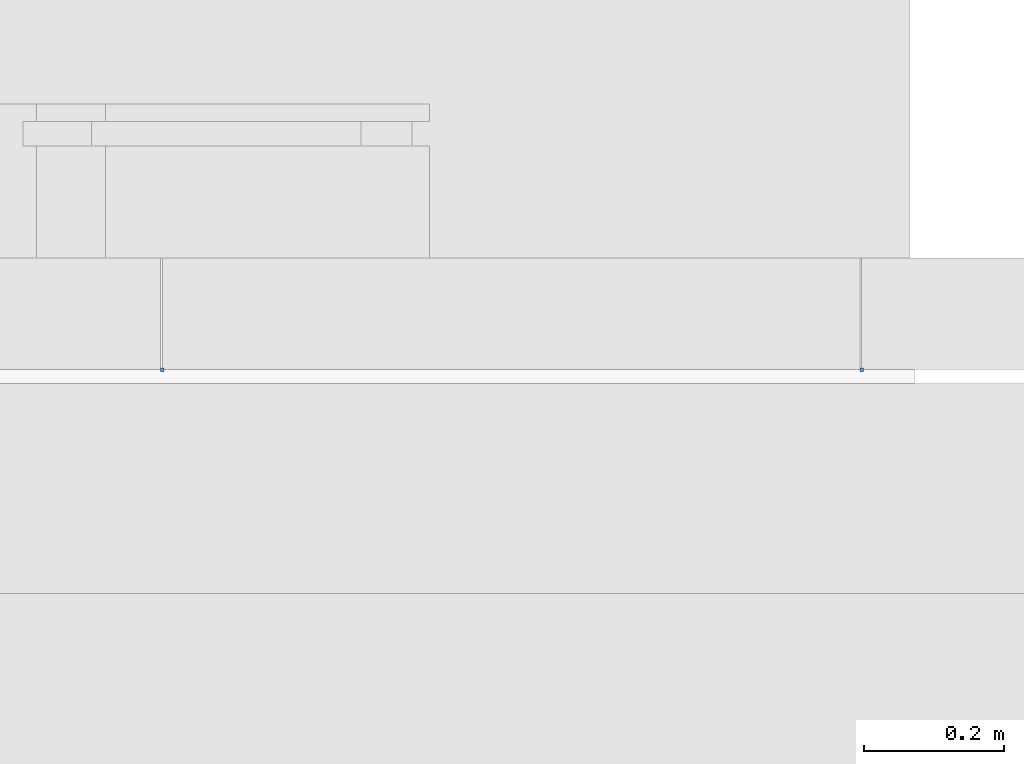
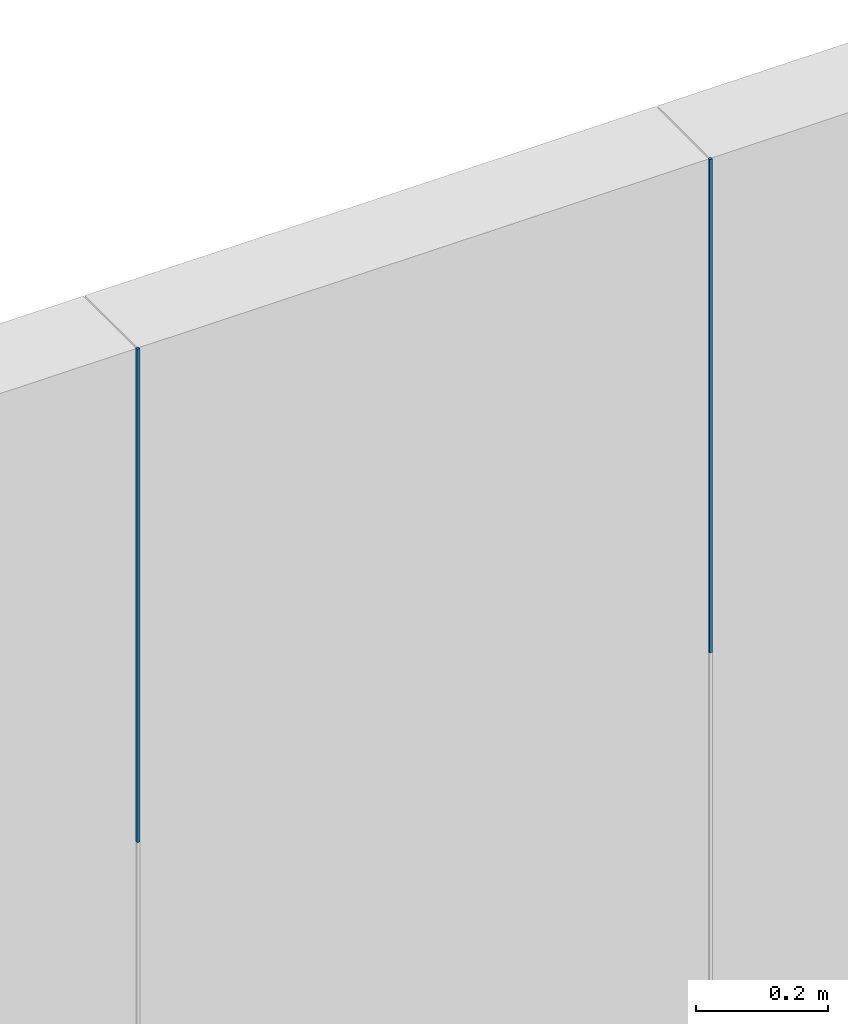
# One storey, part 194 of 302: 2 members, 1 element without a shape of its own.
"""IFC2X3 building model written with IfcOpenShell, lengths in metres."""

from ifc_helpers import new_model, entity, si_unit, converted_unit, derived_unit, direction, frame, frame_2d, origin, place, context, subcontext, project, spatial, rectangle, extrude, source, transform, mapped, material, type_object, type_shapes, element, aggregate, save


model = new_model("IFC2X3")

# Units and contexts
model_context = context("Model", 3, precision=1e-05, world=origin(), true_north=direction((6.12303176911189e-17, 1.0)))
body_context = subcontext(model_context, "Body", "Model", "MODEL_VIEW")
ifc_project = project(units=[si_unit("LENGTHUNIT", "METRE"), si_unit("AREAUNIT", "SQUARE_METRE"), si_unit("VOLUMEUNIT", "CUBIC_METRE"), converted_unit("PLANEANGLEUNIT", "DEGREE", entity("IfcRatioMeasure", 0.0174532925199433), si_unit("PLANEANGLEUNIT", "RADIAN"), dimensions=[0, 0, 0, 0, 0, 0, 0]), si_unit("MASSUNIT", "GRAM", prefix="KILO"), derived_unit("MASSDENSITYUNIT", [(si_unit("MASSUNIT", "GRAM", prefix="KILO"), 1), (si_unit("LENGTHUNIT", "METRE"), -3)]), derived_unit("MOMENTOFINERTIAUNIT", [(si_unit("LENGTHUNIT", "METRE"), 4)]), si_unit("TIMEUNIT", "SECOND"), si_unit("FREQUENCYUNIT", "HERTZ"), si_unit("THERMODYNAMICTEMPERATUREUNIT", "DEGREE_CELSIUS"), derived_unit("THERMALTRANSMITTANCEUNIT", [(si_unit("MASSUNIT", "GRAM", prefix="KILO"), 1), (si_unit("THERMODYNAMICTEMPERATUREUNIT", "KELVIN"), -1), (si_unit("TIMEUNIT", "SECOND"), -3)]), derived_unit("VOLUMETRICFLOWRATEUNIT", [(si_unit("LENGTHUNIT", "METRE"), 3), (si_unit("TIMEUNIT", "SECOND"), -1)]), si_unit("ELECTRICCURRENTUNIT", "AMPERE"), si_unit("ELECTRICVOLTAGEUNIT", "VOLT"), si_unit("POWERUNIT", "WATT"), si_unit("FORCEUNIT", "NEWTON", prefix="KILO"), si_unit("ILLUMINANCEUNIT", "LUX"), si_unit("LUMINOUSFLUXUNIT", "LUMEN"), si_unit("LUMINOUSINTENSITYUNIT", "CANDELA"), derived_unit("USERDEFINED", [(si_unit("MASSUNIT", "GRAM", prefix="KILO"), -1), (si_unit("LENGTHUNIT", "METRE"), -2), (si_unit("TIMEUNIT", "SECOND"), 3), (si_unit("LUMINOUSFLUXUNIT", "LUMEN"), 1)]), derived_unit("LINEARVELOCITYUNIT", [(si_unit("LENGTHUNIT", "METRE"), 1), (si_unit("TIMEUNIT", "SECOND"), -1)]), si_unit("PRESSUREUNIT", "PASCAL"), derived_unit("USERDEFINED", [(si_unit("LENGTHUNIT", "METRE"), -2), (si_unit("MASSUNIT", "GRAM", prefix="KILO"), 1), (si_unit("TIMEUNIT", "SECOND"), -2)]), derived_unit("LINEARFORCEUNIT", [(si_unit("MASSUNIT", "GRAM", prefix="KILO"), 1), (si_unit("LENGTHUNIT", "METRE"), 1), (si_unit("TIMEUNIT", "SECOND"), -2), (si_unit("LENGTHUNIT", "METRE"), -1)]), derived_unit("PLANARFORCEUNIT", [(si_unit("MASSUNIT", "GRAM", prefix="KILO"), 1), (si_unit("LENGTHUNIT", "METRE"), 1), (si_unit("TIMEUNIT", "SECOND"), -2), (si_unit("LENGTHUNIT", "METRE"), -2)])], contexts=[model_context])

# Site, building, storey
site_placement = place(None, origin())
site = spatial("IfcSite", under=ifc_project, at=site_placement, Name="Default", CompositionType="ELEMENT")
building_placement = place(site_placement, origin())
building = spatial("IfcBuilding", under=site, at=building_placement, CompositionType="ELEMENT")
storey_placement = place(building_placement, frame((0.0, 0.0, -1.3)))
storey = spatial("IfcBuildingStorey", under=building, at=storey_placement, Name="00_EG", CompositionType="ELEMENT", Elevation=-1.3)

# Curtain wall, members
curtain_wall_type = type_object("IfcCurtainWallType", Name="Fassade:Curtain Wall 1", PredefinedType="NOTDEFINED")
curtain_wall_placement = place(storey_placement, frame((0.0, 0.0, 1.3)))
curtain_wall = element("IfcCurtainWall", 1, at=curtain_wall_placement, inside=storey, type_object=curtain_wall_type, Name="Fassade:Curtain Wall 1", ObjectType="Fassade:Curtain Wall 1")
ifc_material = material(Name="Aluminium")
member_type = type_object("IfcMemberType", Name="Rectangular Mullion:Paneele Spalt", PredefinedType="MULLION", material=ifc_material)
shared_shape = source(origin(), body_context, "Body", "SweptSolid", [
    extrude(rectangle(XDim=0.005, YDim=0.005, at=frame_2d((0.0, -6.50521303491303e-19), x_axis=(1.0, 0.0))), frame((0.0, 0.0, -0.911252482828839), z_axis=(0.0, 0.0, 1.0), x_axis=(0.0, -1.0, 0.0)), (0.0, 0.0, 1.0), 0.911252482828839),
])
type_shapes(member_type, [shared_shape])
member_1_placement = place(storey_placement, frame((-225.610111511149, 45.578088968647, 10.2096475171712), z_axis=(0.0, 0.0, -1.0), x_axis=(-1.0, 0.0, 0.0)))
member_1 = element("IfcMember", 2, at=member_1_placement, type_object=member_type, material=ifc_material, Name="Rectangular Mullion:Paneele Spalt", ObjectType="Rectangular Mullion:Paneele Spalt", context=body_context, shape_type="MappedRepresentation", body=[
    mapped(shared_shape, transform((0.0, 0.0, 0.0), scale=1.0)),
])
member_2_placement = place(storey_placement, frame((-226.610111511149, 45.578088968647, 10.2096475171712), z_axis=(0.0, 0.0, -1.0), x_axis=(-1.0, 0.0, 0.0)))
member_2 = element("IfcMember", 3, at=member_2_placement, type_object=member_type, material=ifc_material, Name="Rectangular Mullion:Paneele Spalt", ObjectType="Rectangular Mullion:Paneele Spalt", context=body_context, shape_type="MappedRepresentation", body=[
    mapped(shared_shape, transform((0.0, 0.0, 0.0), scale=1.0)),
])
aggregate(curtain_wall, [member_1, member_2])

save(model, "model.ifc")
